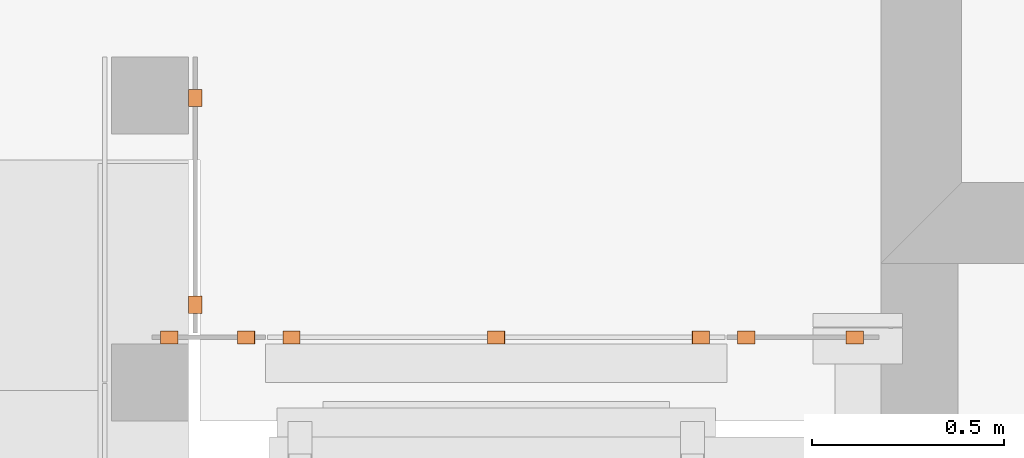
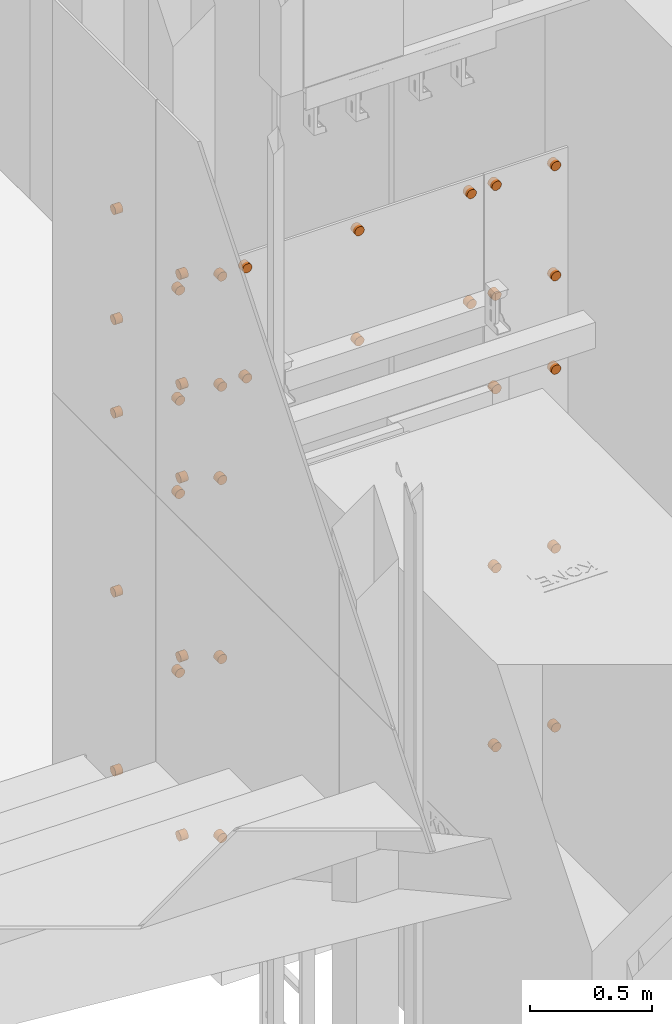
# One storey, part 87 of 89: 35 proxies.
"""IFC2X3 building model written with IfcOpenShell, lengths in millimetres."""

from ifc_helpers import new_model, entity, si_unit, converted_unit, derived_unit, money_unit, direction, frame, origin_with_axes, place, context, subcontext, project, spatial, faceted_brep, source, transform, mapped, type_object, element, save


model = new_model("IFC2X3")

# Units and contexts
model_context = context("Model", 3, precision=0.01, world=origin_with_axes(), true_north=direction((0.0, 1.0)))
body_context = subcontext(model_context, "Body", "Model", "MODEL_VIEW")
ifc_project = project(units=[si_unit("LENGTHUNIT", "METRE", prefix="MILLI"), si_unit("AREAUNIT", "SQUARE_METRE"), si_unit("VOLUMEUNIT", "CUBIC_METRE"), converted_unit("PLANEANGLEUNIT", "DEGREE", entity("IfcPlaneAngleMeasure", 0.0174532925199), si_unit("PLANEANGLEUNIT", "RADIAN"), dimensions=[0, 0, 0, 0, 0, 0, 0]), si_unit("SOLIDANGLEUNIT", "STERADIAN"), money_unit("EUR"), converted_unit("TIMEUNIT", "Year", entity("IfcTimeMeasure", 31556926.0), si_unit("TIMEUNIT", "SECOND"), dimensions=[0, 0, 1, 0, 0, 0, 0]), si_unit("MASSUNIT", "GRAM", prefix="KILO"), si_unit("THERMODYNAMICTEMPERATUREUNIT", "DEGREE_CELSIUS"), si_unit("LUMINOUSINTENSITYUNIT", "LUMEN"), si_unit("ENERGYUNIT", "JOULE", prefix="MEGA"), derived_unit("THERMALCONDUCTANCEUNIT", [(si_unit("POWERUNIT", "WATT"), 1), (si_unit("LENGTHUNIT", "METRE"), -1), (si_unit("THERMODYNAMICTEMPERATUREUNIT", "KELVIN"), -1)]), derived_unit("SPECIFICHEATCAPACITYUNIT", [(si_unit("ENERGYUNIT", "JOULE"), 1), (si_unit("MASSUNIT", "GRAM", prefix="KILO"), -1), (si_unit("THERMODYNAMICTEMPERATUREUNIT", "KELVIN"), -1)]), derived_unit("MASSDENSITYUNIT", [(si_unit("MASSUNIT", "GRAM", prefix="KILO"), 1), (si_unit("VOLUMEUNIT", "CUBIC_METRE"), -1)])], contexts=[model_context])

# Site, building, storey
site_placement = place(None, origin_with_axes())
site = spatial("IfcSite", under=ifc_project, at=site_placement, Name="Puškini 31, Narva", CompositionType="ELEMENT")
building_placement = place(site_placement, origin_with_axes())
building = spatial("IfcBuilding", under=site, at=building_placement, Name="Narva Riigigümnaasium", CompositionType="ELEMENT")
storey_placement = place(building_placement, frame((0.0, 0.0, -3300.0), z_axis=(0.0, 0.0, 1.0), x_axis=(1.0, 0.0, 0.0)))
storey = spatial("IfcBuildingStorey", under=building, at=storey_placement, Name="1.korrus -3.3", CompositionType="ELEMENT", Elevation=-3300.0)

# Proxies
building_element_proxy_type = type_object("IfcBuildingElementProxyType", Name="Cylinder 23", PredefinedType="NOTDEFINED")
shared_shape = source(origin_with_axes(), body_context, "Body", "Brep", [
    faceted_brep([(0.0, -3.90708399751, -22.1581744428), (0.0, 0.0, -22.5), (35.0, 0.0, -22.5), (35.0, -3.90708399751, -22.1581744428), (0.0, -7.69545322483, -21.1430839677), (0.0, -11.25, -19.4855715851), (0.0, -14.4627212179, -17.2359999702), (0.0, -17.2359999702, -14.4627212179), (0.0, -19.4855715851, -11.25), (0.0, -21.1430839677, -7.69545322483), (0.0, -22.1581744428, -3.90708399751), (0.0, -22.5, 0.0), (0.0, -22.1581744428, 3.90708399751), (0.0, -21.1430839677, 7.69545322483), (0.0, -19.4855715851, 11.25), (0.0, -17.2359999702, 14.4627212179), (0.0, -14.4627212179, 17.2359999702), (0.0, -11.25, 19.4855715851), (0.0, -7.69545322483, 21.1430839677), (0.0, -3.90708399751, 22.1581744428), (0.0, 0.0, 22.5), (0.0, 3.90708399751, 22.1581744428), (0.0, 7.69545322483, 21.1430839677), (0.0, 11.25, 19.4855715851), (0.0, 14.4627212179, 17.2359999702), (0.0, 17.2359999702, 14.4627212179), (0.0, 19.4855715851, 11.25), (0.0, 21.1430839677, 7.69545322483), (0.0, 22.1581744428, 3.90708399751), (0.0, 22.5, 0.0), (0.0, 22.1581744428, -3.90708399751), (0.0, 21.1430839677, -7.69545322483), (0.0, 19.4855715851, -11.25), (0.0, 17.2359999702, -14.4627212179), (0.0, 14.4627212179, -17.2359999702), (0.0, 11.25, -19.4855715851), (0.0, 7.69545322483, -21.1430839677), (0.0, 3.90708399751, -22.1581744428), (35.0, 3.90708399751, -22.1581744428), (35.0, 7.69545322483, -21.1430839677), (35.0, 11.25, -19.4855715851), (35.0, 14.4627212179, -17.2359999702), (35.0, 17.2359999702, -14.4627212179), (35.0, 19.4855715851, -11.25), (35.0, 21.1430839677, -7.69545322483), (35.0, 22.1581744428, -3.90708399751), (35.0, 22.5, 0.0), (35.0, 22.1581744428, 3.90708399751), (35.0, 21.1430839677, 7.69545322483), (35.0, 19.4855715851, 11.25), (35.0, 17.2359999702, 14.4627212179), (35.0, 14.4627212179, 17.2359999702), (35.0, 11.25, 19.4855715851), (35.0, 7.69545322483, 21.1430839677), (35.0, 3.90708399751, 22.1581744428), (35.0, 0.0, 22.5), (35.0, -3.90708399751, 22.1581744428), (35.0, -7.69545322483, 21.1430839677), (35.0, -11.25, 19.4855715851), (35.0, -14.4627212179, 17.2359999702), (35.0, -17.2359999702, 14.4627212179), (35.0, -19.4855715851, 11.25), (35.0, -21.1430839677, 7.69545322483), (35.0, -22.1581744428, 3.90708399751), (35.0, -22.5, 0.0), (35.0, -22.1581744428, -3.90708399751), (35.0, -21.1430839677, -7.69545322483), (35.0, -19.4855715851, -11.25), (35.0, -17.2359999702, -14.4627212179), (35.0, -14.4627212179, -17.2359999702), (35.0, -11.25, -19.4855715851), (35.0, -7.69545322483, -21.1430839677)], [[[0, 1, 2, 3]], [[0, 4, 5, 6, 7, 8, 9, 10, 11, 12, 13, 14, 15, 16, 17, 18, 19, 20, 21, 22, 23, 24, 25, 26, 27, 28, 29, 30, 31, 32, 33, 34, 35, 36, 37, 1]], [[1, 37, 38, 2]], [[3, 2, 38, 39, 40, 41, 42, 43, 44, 45, 46, 47, 48, 49, 50, 51, 52, 53, 54, 55, 56, 57, 58, 59, 60, 61, 62, 63, 64, 65, 66, 67, 68, 69, 70, 71]], [[4, 0, 3, 71]], [[5, 4, 71, 70]], [[6, 5, 70, 69]], [[7, 6, 69, 68]], [[8, 7, 68, 67]], [[9, 8, 67, 66]], [[10, 9, 66, 65]], [[11, 10, 65, 64]], [[12, 11, 64, 63]], [[13, 12, 63, 62]], [[14, 13, 62, 61]], [[15, 14, 61, 60]], [[16, 15, 60, 59]], [[17, 16, 59, 58]], [[18, 17, 58, 57]], [[19, 18, 57, 56]], [[20, 19, 56, 55]], [[21, 20, 55, 54]], [[22, 21, 54, 53]], [[23, 22, 53, 52]], [[24, 23, 52, 51]], [[25, 24, 51, 50]], [[26, 25, 50, 49]], [[27, 26, 49, 48]], [[28, 27, 48, 47]], [[29, 28, 47, 46]], [[30, 29, 46, 45]], [[31, 30, 45, 44]], [[32, 31, 44, 43]], [[33, 32, 43, 42]], [[34, 33, 42, 41]], [[35, 34, 41, 40]], [[36, 35, 40, 39]], [[37, 36, 39, 38]]]),
])
for number, where, z_axis, x_axis in (
    (1, (47150.0, 198395.0, 2330.0), (0.0, 0.0, 1.0), (0.0, -1.0, 0.0)),
    (2, (45968.0, 198395.0, 2330.0), (0.0, 0.0, 1.0), (0.0, -1.0, 0.0)),
    (3, (46500.0, 198395.0, 2330.0), (0.0, 0.0, 1.0), (0.0, -1.0, 0.0)),
    (4, (47032.0, 198395.0, 2330.0), (0.0, 0.0, 1.0), (0.0, -1.0, 0.0)),
    (5, (45850.0, 198395.0, 2330.0), (0.0, 0.0, 1.0), (0.0, -1.0, 0.0)),
    (6, (47432.0594655, 198395.0, 2330.0), (0.0, 0.0, 1.0), (0.0, -1.0, 0.0)),
    (7, (47150.0, 198395.0, 2882.0), (0.0, 0.0, 1.0), (0.0, -1.0, 0.0)),
    (8, (45968.0, 198395.0, 2882.0), (0.0, 0.0, 1.0), (0.0, -1.0, 0.0)),
    (9, (46500.0, 198395.0, 2882.0), (0.0, 0.0, 1.0), (0.0, -1.0, 0.0)),
    (10, (47032.0, 198395.0, 2882.0), (0.0, 0.0, 1.0), (0.0, -1.0, 0.0)),
    (11, (45850.0, 198395.0, 2882.0), (0.0, 0.0, 1.0), (0.0, -1.0, 0.0)),
    (12, (47432.0594655, 198395.0, 2882.0), (0.0, 0.0, 1.0), (0.0, -1.0, 0.0)),
    (13, (47150.0, 198395.0, 1862.0), (0.0, 0.0, 1.0), (0.0, -1.0, 0.0)),
    (14, (45850.0, 198395.0, 1862.0), (0.0, 0.0, 1.0), (0.0, -1.0, 0.0)),
    (15, (47432.0594655, 198395.0, 1862.0), (0.0, 0.0, 1.0), (0.0, -1.0, 0.0)),
    (16, (47150.0, 198395.0, 965.0), (0.0, 0.0, 1.0), (0.0, -1.0, 0.0)),
    (17, (45850.0, 198395.0, 965.0), (0.0, 0.0, 1.0), (0.0, -1.0, 0.0)),
    (18, (47432.0594655, 198395.0, 965.0), (0.0, 0.0, 1.0), (0.0, -1.0, 0.0)),
    (19, (47150.0, 198395.0, 68.0), (0.0, 0.0, 1.0), (0.0, -1.0, 0.0)),
    (20, (45850.0, 198395.0, 68.0), (0.0, 0.0, 1.0), (0.0, -1.0, 0.0)),
    (21, (47432.0594655, 198395.0, 68.0), (0.0, 0.0, 1.0), (0.0, -1.0, 0.0)),
    (22, (45650.0, 198395.0, 2330.0), (0.0, 0.0, 1.0), (0.0, -1.0, 0.0)),
    (23, (45650.0, 198395.0, 2882.0), (0.0, 0.0, 1.0), (0.0, -1.0, 0.0)),
    (24, (45650.0, 198395.0, 1862.0), (0.0, 0.0, 1.0), (0.0, -1.0, 0.0)),
    (25, (45650.0, 198395.0, 965.0), (0.0, 0.0, 1.0), (0.0, -1.0, 0.0)),
    (26, (45734.9999993, 198463.0, 2330.0), (0.0, 0.0, 1.0), (-1.0, 0.0, 0.0)),
    (27, (45734.9999993, 198463.0, 2882.0), (0.0, 0.0, 1.0), (-1.0, 0.0, 0.0)),
    (28, (45734.9999993, 198463.0, 1862.0), (0.0, 0.0, 1.0), (-1.0, 0.0, 0.0)),
    (29, (45734.9999993, 198463.0, 965.0), (0.0, 0.0, 1.0), (-1.0, 0.0, 0.0)),
    (30, (45734.9999993, 198463.0, 68.0), (0.0, 0.0, 1.0), (-1.0, 0.0, 0.0)),
    (31, (45734.9999993, 199000.0, 2330.0), (0.0, 0.0, 1.0), (-1.0, 0.0, 0.0)),
    (32, (45734.9999993, 199000.0, 2882.0), (0.0, 0.0, 1.0), (-1.0, 0.0, 0.0)),
    (33, (45734.9999993, 199000.0, 1862.0), (0.0, 0.0, 1.0), (-1.0, 0.0, 0.0)),
    (34, (45734.9999993, 199000.0, 965.0), (0.0, 0.0, 1.0), (-1.0, 0.0, 0.0)),
    (35, (45734.9999993, 199000.0, 68.0), (0.0, 0.0, 1.0), (-1.0, 0.0, 0.0)),
):
    element("IfcBuildingElementProxy", number, at=place(storey_placement, frame(where, z_axis=z_axis, x_axis=x_axis)), inside=storey, type_object=building_element_proxy_type, Name="MÖÖBEL", context=body_context, shape_type="MappedRepresentation", body=[
        mapped(shared_shape, transform((0.0, 0.0, 0.0))),
    ])

save(model, "model.ifc")
